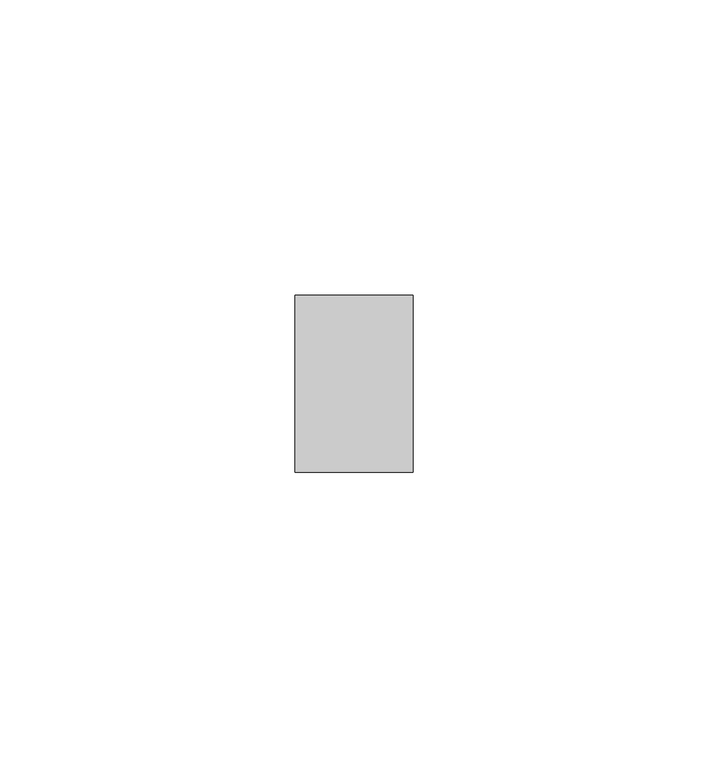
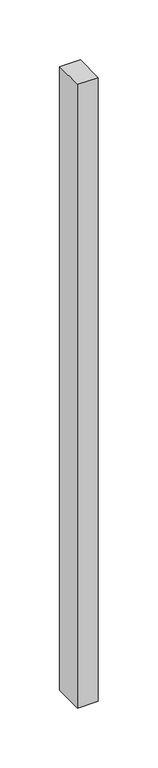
"""IFC4 building model written with IfcOpenShell, lengths in millimetres: member geometry, Прямоугольный импост : Квадрат 10 мм - Зазор между навесными плитами."""

from ifc_helpers import new_model, si_unit, frame, origin, place, context, project, spatial, polyline, outline, extrude, source, transform, mapped, element, save


def member_af5a4818(model_context):
    return source(origin(), model_context, "Body", "SweptSolid", [
        extrude(outline(polyline([(0.0, 15.0), (0.0, -15.0), (-20.0, -15.0), (-20.0, 15.0), (0.0, 15.0)])), frame((0.0, 0.0, -636.7314798), z_axis=(0.0, 0.0, 1.0), x_axis=(1.0, 0.0, 0.0)), (0.0, 0.0, 1.0), 636.7314798),
    ])


if __name__ == "__main__":
    model = new_model("IFC4")
    model_context = context("Model", 3, world=origin())
    ifc_project = project(units=[si_unit("LENGTHUNIT", "METRE", prefix="MILLI")], contexts=[model_context])
    site = spatial("IfcSite", under=ifc_project)
    building = spatial("IfcBuilding", under=site)
    placement = place(None, origin())
    member_shape = member_af5a4818(model_context)
    element("IfcMember", 1, ObjectType="Прямоугольный импост : Квадрат 10 мм - Зазор между навесными плитами", at=placement, inside=building, context=model_context, shape_type="MappedRepresentation", body=[
        mapped(member_shape, transform((0.0, 0.0, 0.0), x_axis=(1.0, 0.0, 0.0), y_axis=(0.0, 1.0, 0.0), z_axis=(0.0, 0.0, 1.0))),
    ])
    save(model, "model.ifc")
